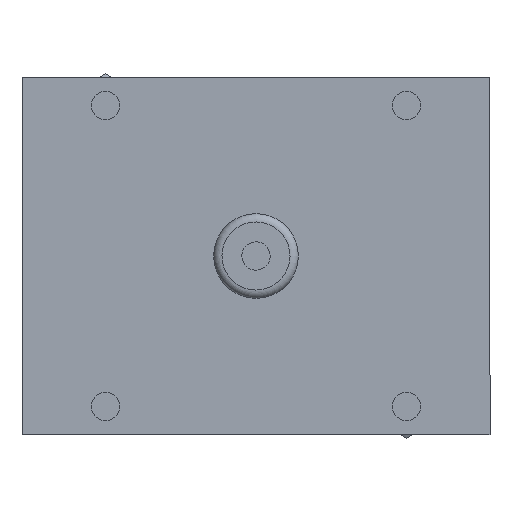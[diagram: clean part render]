
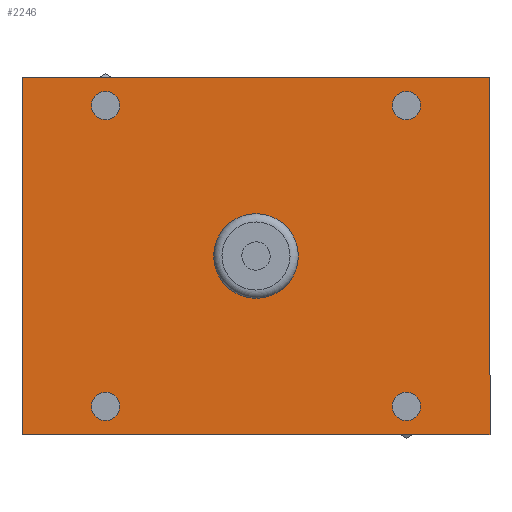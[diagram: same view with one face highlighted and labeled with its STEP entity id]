
A CAD part, front view. The second image highlights one B-rep face of the part: STEP entity #2246.
In plain terms, the highlighted planar face has unit normal (0, -1, 0).
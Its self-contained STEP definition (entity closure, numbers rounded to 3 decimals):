
#2136=CARTESIAN_POINT('',(0.,0.,-9.936));
#2137=VERTEX_POINT('',#2136);
#2138=CARTESIAN_POINT('',(0.,0.0,0.));
#2139=DIRECTION('',(0.0,1.0,0.0));
#2140=DIRECTION('',(0.0,0.0,1.0));
#2141=AXIS2_PLACEMENT_3D('',#2138,#2139,#2140);
#2142=CIRCLE('',#2141,9.936);
#2143=EDGE_CURVE('',#2137,#2137,#2142,.T.);
#2160=CARTESIAN_POINT('',(0.,0.,0.));
#2161=DIRECTION('',(0.0,1.0,0.0));
#2162=DIRECTION('',(0.0,0.0,-1.0));
#2163=AXIS2_PLACEMENT_3D('',#2160,#2161,#2162);
#2164=PLANE('',#2163);
#2165=CARTESIAN_POINT('',(-55.,0.,42.));
#2166=VERTEX_POINT('',#2165);
#2167=CARTESIAN_POINT('',(-55.,0.,-42.));
#2168=VERTEX_POINT('',#2167);
#2169=CARTESIAN_POINT('',(-55.,0.,42.));
#2170=DIRECTION('',(0.0,0.0,-1.0));
#2171=VECTOR('',#2170,84.);
#2172=LINE('',#2169,#2171);
#2173=EDGE_CURVE('',#2166,#2168,#2172,.T.);
#2174=ORIENTED_EDGE('',*,*,#2173,.T.);
#2175=CARTESIAN_POINT('',(55.,0.,-42.));
#2176=VERTEX_POINT('',#2175);
#2177=CARTESIAN_POINT('',(-55.,0.,-42.));
#2178=DIRECTION('',(1.0,0.0,0.0));
#2179=VECTOR('',#2178,110.);
#2180=LINE('',#2177,#2179);
#2181=EDGE_CURVE('',#2168,#2176,#2180,.T.);
#2182=ORIENTED_EDGE('',*,*,#2181,.T.);
#2183=CARTESIAN_POINT('',(55.,0.,42.));
#2184=VERTEX_POINT('',#2183);
#2185=CARTESIAN_POINT('',(55.,0.,-42.));
#2186=DIRECTION('',(0.0,0.0,1.0));
#2187=VECTOR('',#2186,84.0);
#2188=LINE('',#2185,#2187);
#2189=EDGE_CURVE('',#2176,#2184,#2188,.T.);
#2190=ORIENTED_EDGE('',*,*,#2189,.T.);
#2191=CARTESIAN_POINT('',(55.,0.,42.));
#2192=DIRECTION('',(-1.0,0.0,0.0));
#2193=VECTOR('',#2192,110.0);
#2194=LINE('',#2191,#2193);
#2195=EDGE_CURVE('',#2184,#2166,#2194,.T.);
#2196=ORIENTED_EDGE('',*,*,#2195,.T.);
#2197=EDGE_LOOP('',(#2174,#2182,#2190,#2196));
#2198=FACE_OUTER_BOUND('',#2197,.T.);
#2199=CARTESIAN_POINT('',(-35.355,0.,-32.032));
#2200=VERTEX_POINT('',#2199);
#2201=CARTESIAN_POINT('',(-35.355,0.,-35.355));
#2202=DIRECTION('',(0.0,1.0,0.0));
#2203=DIRECTION('',(0.0,0.0,1.0));
#2204=AXIS2_PLACEMENT_3D('',#2201,#2202,#2203);
#2205=CIRCLE('',#2204,3.324);
#2206=EDGE_CURVE('',#2200,#2200,#2205,.T.);
#2207=ORIENTED_EDGE('',*,*,#2206,.T.);
#2208=EDGE_LOOP('',(#2207));
#2209=FACE_BOUND('',#2208,.T.);
#2210=CARTESIAN_POINT('',(35.355,0.,-32.032));
#2211=VERTEX_POINT('',#2210);
#2212=CARTESIAN_POINT('',(35.355,0.,-35.355));
#2213=DIRECTION('',(0.0,1.0,0.0));
#2214=DIRECTION('',(0.0,0.0,1.0));
#2215=AXIS2_PLACEMENT_3D('',#2212,#2213,#2214);
#2216=CIRCLE('',#2215,3.324);
#2217=EDGE_CURVE('',#2211,#2211,#2216,.T.);
#2218=ORIENTED_EDGE('',*,*,#2217,.T.);
#2219=EDGE_LOOP('',(#2218));
#2220=FACE_BOUND('',#2219,.T.);
#2221=CARTESIAN_POINT('',(35.355,0.,38.679));
#2222=VERTEX_POINT('',#2221);
#2223=CARTESIAN_POINT('',(35.355,0.,35.355));
#2224=DIRECTION('',(0.0,1.0,0.0));
#2225=DIRECTION('',(0.0,0.0,1.0));
#2226=AXIS2_PLACEMENT_3D('',#2223,#2224,#2225);
#2227=CIRCLE('',#2226,3.324);
#2228=EDGE_CURVE('',#2222,#2222,#2227,.T.);
#2229=ORIENTED_EDGE('',*,*,#2228,.T.);
#2230=EDGE_LOOP('',(#2229));
#2231=FACE_BOUND('',#2230,.T.);
#2232=CARTESIAN_POINT('',(-35.355,0.,38.679));
#2233=VERTEX_POINT('',#2232);
#2234=CARTESIAN_POINT('',(-35.355,0.,35.355));
#2235=DIRECTION('',(0.0,1.0,0.0));
#2236=DIRECTION('',(0.0,0.0,1.0));
#2237=AXIS2_PLACEMENT_3D('',#2234,#2235,#2236);
#2238=CIRCLE('',#2237,3.324);
#2239=EDGE_CURVE('',#2233,#2233,#2238,.T.);
#2240=ORIENTED_EDGE('',*,*,#2239,.T.);
#2241=EDGE_LOOP('',(#2240));
#2242=FACE_BOUND('',#2241,.T.);
#2243=ORIENTED_EDGE('',*,*,#2143,.T.);
#2244=EDGE_LOOP('',(#2243));
#2245=FACE_BOUND('',#2244,.T.);
#2246=ADVANCED_FACE('',(#2198,#2209,#2220,#2231,#2242,#2245),#2164,.F.);
